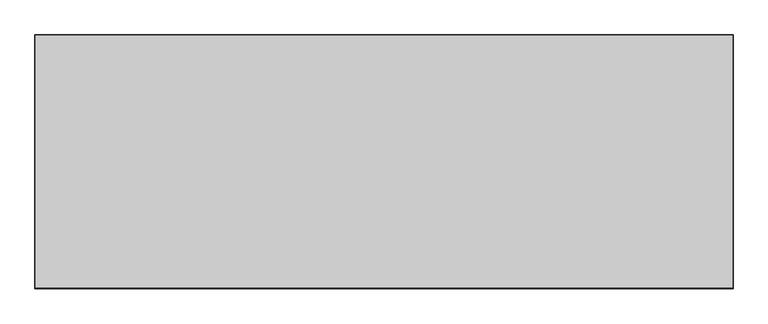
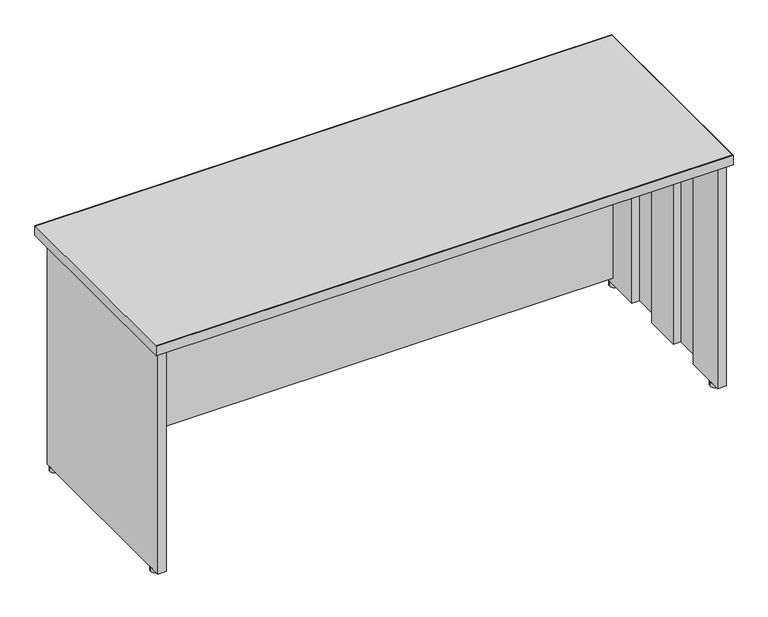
"""IFC4 building model written with IfcOpenShell, lengths in millimetres: furniture geometry, Steelcase - Kick Freestanding - Desk Shell - Full Height Modesty Panel : 24D x 66W."""

from ifc_helpers import new_model, si_unit, point, frame, frame_2d, origin, origin_with_axes, place, context, project, spatial, polyline, circle_curve, trimmed, segment, composite_curve, outline, extrude, source, transform, mapped, element, save


def furniture_2780da3d(model_context):
    return source(origin(), model_context, "Body", "SweptSolid", [
        extrude(outline(polyline([(677.0450425, -999.9647597), (677.0450425, -974.5647604), (2279.0738425, -974.5647604), (2279.0738425, -999.9647597), (677.0450425, -999.9647597)])), frame((0.0, 0.0, 31.242), z_axis=(0.0, 0.0, 1.0), x_axis=(1.0, 0.0, 0.0)), (0.0, 0.0, 1.0), 663.702),
        extrude(outline(composite_curve([segment(trimmed(circle_curve(frame_2d((665.1357759, -986.9367877)), 13.97), [point((651.1657759, -986.9367877))], [point((679.1057759, -986.9367877))], False, "CARTESIAN"), True, "CONTINUOUS"), segment(trimmed(circle_curve(frame_2d((665.1357759, -986.9367877)), 13.97), [point((679.1057759, -986.9367877))], [point((651.1657759, -986.9367877))], False, "CARTESIAN"), True, "CONTINUOUS")], self_intersect=False)), origin_with_axes(), (0.0, 0.0, 1.0), 12.446),
        extrude(outline(composite_curve([segment(trimmed(circle_curve(frame_2d((665.1357759, -1493.6441481)), 13.97), [point((651.1657759, -1493.6441481))], [point((679.1057759, -1493.6441481))], False, "CARTESIAN"), True, "CONTINUOUS"), segment(trimmed(circle_curve(frame_2d((665.1357759, -1493.6441481)), 13.97), [point((679.1057759, -1493.6441481))], [point((651.1657759, -1493.6441481))], False, "CARTESIAN"), True, "CONTINUOUS")], self_intersect=False)), origin_with_axes(), (0.0, 0.0, 1.0), 12.446),
        extrude(outline(polyline([(2279.0738425, -1096.0529604), (2279.0738425, -972.7867604), (2303.5594421, -972.7867604), (2303.5594421, -1528.538741), (2279.0738421, -1528.538741), (2279.0738421, -1404.2311348), (2301.5020425, -1404.2311348), (2301.5020425, -1304.5107682), (2279.0738421, -1304.5107682), (2279.0738421, -1195.7733647), (2301.5020425, -1195.7733647), (2301.5020425, -1096.0529604), (2279.0738425, -1096.0529604)])), frame((0.0, 0.0, 12.446), z_axis=(0.0, 0.0, 1.0), x_axis=(1.0, 0.0, 0.0)), (0.0, 0.0, 1.0), 682.498),
        extrude(outline(polyline([(677.0450425, -1096.0529604), (654.6168425, -1096.0529604), (654.6168425, -1195.7733647), (677.0450429, -1195.7733647), (677.0450429, -1304.5107682), (654.6168425, -1304.5107682), (654.6168425, -1404.2311348), (677.0450429, -1404.2311348), (677.0450429, -1528.538741), (652.5594429, -1528.538741), (652.5594429, -972.7867604), (677.0450425, -972.7867604), (677.0450425, -1096.0529604)])), frame((0.0, 0.0, 12.446), z_axis=(0.0, 0.0, 1.0), x_axis=(1.0, 0.0, 0.0)), (0.0, 0.0, 1.0), 682.498),
        extrude(outline(polyline([(2315.2688425, -932.6293604), (2315.2688425, -1538.2669215), (640.8500425, -1538.2669215), (640.8500425, -932.6293604), (2315.2688425, -932.6293604)])), frame((0.0, 0.0, 694.944), z_axis=(0.0, 0.0, 1.0), x_axis=(1.0, 0.0, 0.0)), (0.0, 0.0, 1.0), 28.956),
        extrude(outline(polyline([(2316.2594425, -931.6387604), (2316.2594425, -1541.2387604), (639.8594425, -1541.2387604), (639.8594425, -931.6387604), (2316.2594425, -931.6387604)]), holes=[polyline([(2315.2688425, -932.6293604), (640.8500425, -932.6293604), (640.8500425, -1538.2669215), (2315.2688425, -1538.2669215), (2315.2688425, -932.6293604)])]), frame((0.0, 0.0, 694.944), z_axis=(0.0, 0.0, 1.0), x_axis=(1.0, 0.0, 0.0)), (0.0, 0.0, 1.0), 28.956),
        extrude(outline(composite_curve([segment(trimmed(circle_curve(frame_2d((2290.9831091, -1493.6441481)), 13.97), [point((2277.0131091, -1493.6441481))], [point((2304.9531091, -1493.6441481))], False, "CARTESIAN"), True, "CONTINUOUS"), segment(trimmed(circle_curve(frame_2d((2290.9831091, -1493.6441481)), 13.97), [point((2304.9531091, -1493.6441481))], [point((2277.0131091, -1493.6441481))], False, "CARTESIAN"), True, "CONTINUOUS")], self_intersect=False)), origin_with_axes(), (0.0, 0.0, 1.0), 12.446),
        extrude(outline(composite_curve([segment(trimmed(circle_curve(frame_2d((2290.9831091, -986.9367877)), 13.97), [point((2304.9531091, -986.9367877))], [point((2277.0131091, -986.9367877))], False, "CARTESIAN"), True, "CONTINUOUS"), segment(trimmed(circle_curve(frame_2d((2290.9831091, -986.9367877)), 13.97), [point((2277.0131091, -986.9367877))], [point((2304.9531091, -986.9367877))], False, "CARTESIAN"), True, "CONTINUOUS")], self_intersect=False)), origin_with_axes(), (0.0, 0.0, 1.0), 12.446),
    ])


if __name__ == "__main__":
    model = new_model("IFC4")
    model_context = context("Model", 3, world=origin())
    ifc_project = project(units=[si_unit("LENGTHUNIT", "METRE", prefix="MILLI")], contexts=[model_context])
    site = spatial("IfcSite", under=ifc_project)
    building = spatial("IfcBuilding", under=site)
    placement = place(None, origin())
    furniture_shape = furniture_2780da3d(model_context)
    element("IfcFurniture", 1, ObjectType="Steelcase - Kick Freestanding - Desk Shell - Full Height Modesty Panel : 24D x 66W", at=placement, inside=building, context=model_context, shape_type="MappedRepresentation", body=[
        mapped(furniture_shape, transform((0.0, 0.0, 0.0), x_axis=(1.0, 0.0, 0.0), y_axis=(0.0, 1.0, 0.0), z_axis=(0.0, 0.0, 1.0))),
    ])
    save(model, "model.ifc")
